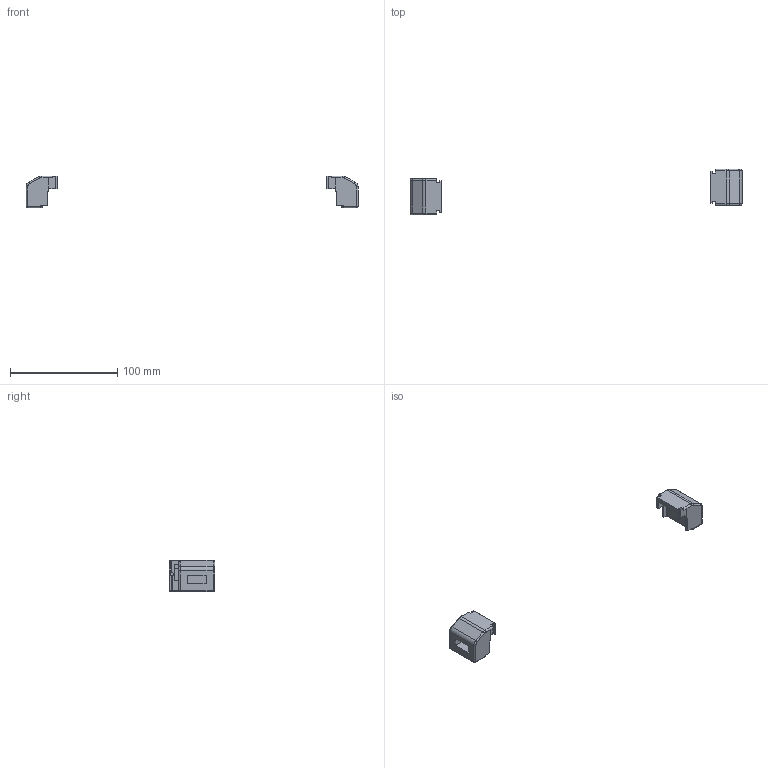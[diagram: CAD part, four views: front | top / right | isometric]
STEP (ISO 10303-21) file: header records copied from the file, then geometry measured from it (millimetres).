
FILE_DESCRIPTION((''),'2;1');
FILE_NAME('DEWI_SR-MINI_DMEC-ASSY_280','2015-12-16T',('emanuel.wild'),(''),'PRO/ENGINEER BY PARAMETRIC TECHNOLOGY CORPORATION, 2015200','PRO/ENGINEER BY PARAMETRIC TECHNOLOGY CORPORATION, 2015200','');
FILE_SCHEMA(('AUTOMOTIVE_DESIGN { 1 0 10303 214 1 1 1 1 }'));
Length unit declared in the file: millimetre
Products named in the file (2): DEWI_SR-MINI_DMEC; DEWI_SR-MINI_DMEC-ASSY_280
Assembly tree (2 placements, depth 2):
  DEWI_SR-MINI_DMEC-ASSY_280
    DEWI_SR-MINI_DMEC  x2
Bounding box: 310 x 42.6 x 29.8 mm (x, y, z)
Volume: 25339.5 mm3; surface area: 13623 mm2
Topology: 2 solids, 2 shells, 202 faces, 528 edges, 332 vertices
Faces by surface type: plane 120, cylinder 58, torus 16, bspline 4, sphere 4
Entity records: 3792 total; most frequent: CARTESIAN_POINT 570, DIRECTION 538, ORIENTED_EDGE 528, EDGE_CURVE 264, VECTOR 196, LINE 196, AXIS2_PLACEMENT_3D 171, VERTEX_POINT 166
